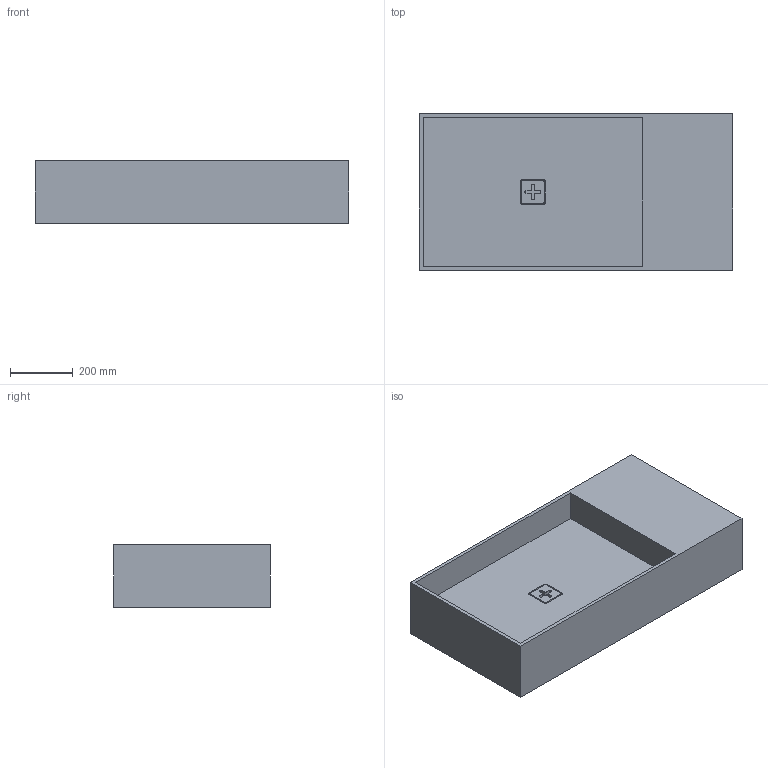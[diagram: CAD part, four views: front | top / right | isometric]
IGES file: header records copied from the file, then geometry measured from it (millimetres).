
Global section: file name: D:\Desktop\GIOVANNI\SCHEDE PRODOTTO\PIANI LAVABO\CANASTA\3D\CANASTA 4.igs; native system: Rhinoceros ( Jan 17 2018 ); preprocessor: Trout Lake IGES 012 Jan 17 2018; date: 230605.141532; units: millimetre
Bounding box: 1000 x 500 x 200 mm (x, y, z)
Surface area: 1872314.1 mm2 (no closed solid volume)
Topology: 0 solids, 0 shells, 54 faces, 288 edges, 288 vertices
Faces by surface type: bspline 54
